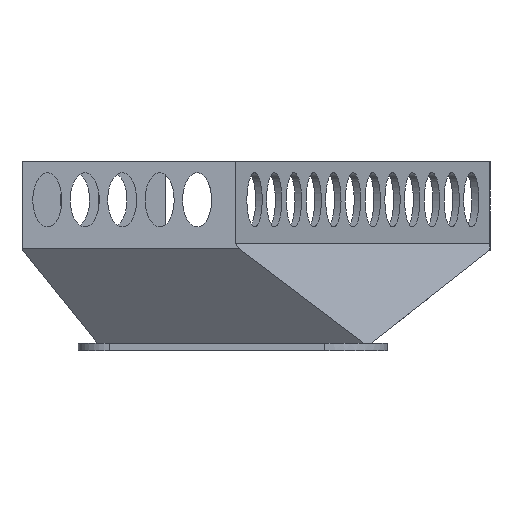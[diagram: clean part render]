
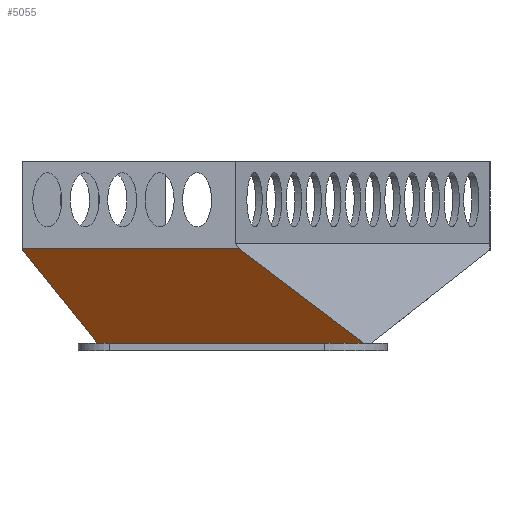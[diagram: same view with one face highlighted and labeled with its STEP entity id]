
A CAD part, left-side view. The second image highlights one B-rep face of the part: STEP entity #5055.
In plain terms, the highlighted planar face has unit normal (-0.788, 0, -0.615).
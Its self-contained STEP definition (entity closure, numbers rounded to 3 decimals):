
#1309=ORIENTED_EDGE('',*,*,#2246,.T.);
#1310=ORIENTED_EDGE('',*,*,#2247,.F.);
#1311=ORIENTED_EDGE('',*,*,#2248,.F.);
#1312=ORIENTED_EDGE('',*,*,#2239,.F.);
#1313=ORIENTED_EDGE('',*,*,#2249,.T.);
#1314=ORIENTED_EDGE('',*,*,#2235,.T.);
#2235=EDGE_CURVE('',#2793,#2794,#3075,.T.);
#2239=EDGE_CURVE('',#2798,#2796,#3079,.T.);
#2246=EDGE_CURVE('',#2794,#2802,#3084,.F.);
#2247=EDGE_CURVE('',#2803,#2802,#3085,.T.);
#2248=EDGE_CURVE('',#2796,#2803,#3086,.T.);
#2249=EDGE_CURVE('',#2798,#2793,#3087,.T.);
#2793=VERTEX_POINT('',#8215);
#2794=VERTEX_POINT('',#8217);
#2796=VERTEX_POINT('',#8222);
#2798=VERTEX_POINT('',#8226);
#2802=VERTEX_POINT('',#8239);
#2803=VERTEX_POINT('',#8243);
#3075=LINE('',#8218,#3338);
#3079=LINE('',#8227,#3342);
#3084=LINE('',#8240,#3347);
#3085=LINE('',#8242,#3348);
#3086=LINE('',#8244,#3349);
#3087=LINE('',#8245,#3350);
#3338=VECTOR('',#6737,1000.);
#3342=VECTOR('',#6743,1000.);
#3347=VECTOR('',#6756,1000.);
#3348=VECTOR('',#6759,1000.);
#3349=VECTOR('',#6760,1000.);
#3350=VECTOR('',#6761,1000.);
#3902=EDGE_LOOP('',(#1309,#1310,#1311,#1312,#1313,#1314));
#4607=FACE_BOUND('',#3902,.T.);
#4861=PLANE('',#5597);
#5055=ADVANCED_FACE('',(#4607),#4861,.T.);
#5597=AXIS2_PLACEMENT_3D('',#8241,#6757,#6758);
#6737=DIRECTION('',(0.,-1.,0.));
#6743=DIRECTION('',(-0.52,0.534,0.667));
#6756=DIRECTION('',(0.426,-0.721,-0.546));
#6757=DIRECTION('',(-0.789,0.,-0.615));
#6758=DIRECTION('',(-0.615,0.,0.789));
#6759=DIRECTION('',(0.,-1.,0.));
#6760=DIRECTION('',(-0.615,0.,0.789));
#6761=DIRECTION('',(0.,-1.,0.));
#8215=CARTESIAN_POINT('',(-204.72,-36.422,0.));
#8217=CARTESIAN_POINT('',(-204.72,-37.897,0.));
#8218=CARTESIAN_POINT('',(-204.72,0.,0.));
#8222=CARTESIAN_POINT('',(-223.673,50.42,24.298));
#8226=CARTESIAN_POINT('',(-204.72,30.982,0.));
#8227=CARTESIAN_POINT('',(-140.726,-34.653,-82.044));
#8239=CARTESIAN_POINT('',(-223.684,-5.805,24.312));
#8240=CARTESIAN_POINT('',(-179.194,-81.095,-32.726));
#8241=CARTESIAN_POINT('',(-127.282,0.,-99.28));
#8242=CARTESIAN_POINT('',(-223.684,-3.58,24.312));
#8243=CARTESIAN_POINT('',(-223.684,50.42,24.312));
#8244=CARTESIAN_POINT('',(-233.93,50.42,37.448));
#8245=CARTESIAN_POINT('',(-204.72,0.,0.));
